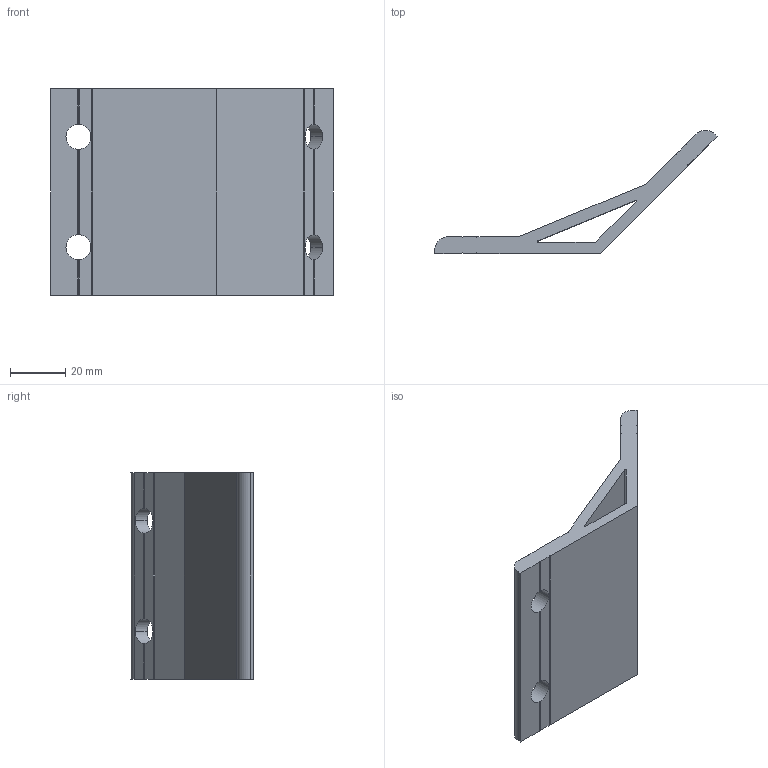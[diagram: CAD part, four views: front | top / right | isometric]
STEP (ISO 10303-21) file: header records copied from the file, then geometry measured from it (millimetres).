
FILE_DESCRIPTION (( 'STEP AP203' ), '1' );
FILE_NAME ('DALV13575-8.STEP', '2020-01-07T03:30:47', ( '' ), ( '' ), 'SwSTEP 2.0', 'SolidWorks 2017', '' );
FILE_SCHEMA (( 'CONFIG_CONTROL_DESIGN' ));
Length unit declared in the file: millimetre
Products named in the file (1): DALV13575-8
Bounding box: 102.43 x 44.58 x 75 mm (x, y, z)
Volume: 56824.4 mm3; surface area: 25847.2 mm2
Topology: 1 solids, 1 shells, 66 faces, 216 edges, 144 vertices
Faces by surface type: plane 52, cylinder 14
Entity records: 2461 total; most frequent: CARTESIAN_POINT 523, ORIENTED_EDGE 432, DIRECTION 362, EDGE_CURVE 216, VERTEX_POINT 144, LINE 140, VECTOR 140, AXIS2_PLACEMENT_3D 111
